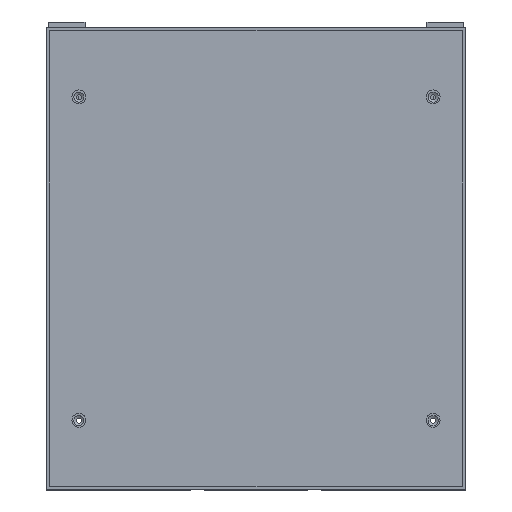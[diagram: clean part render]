
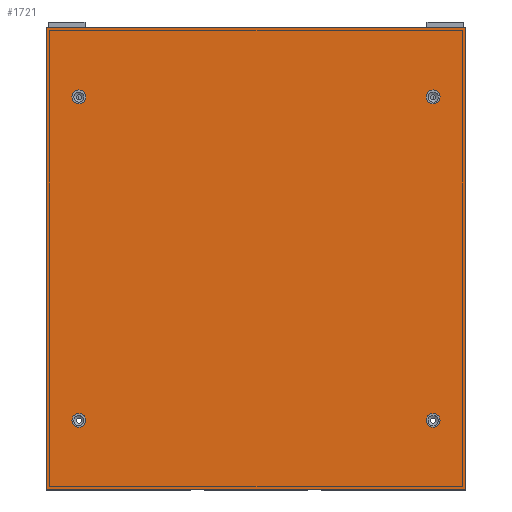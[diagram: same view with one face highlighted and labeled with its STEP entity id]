
A CAD part, top view. The second image highlights one B-rep face of the part: STEP entity #1721.
In plain terms, the highlighted planar face has unit normal (0, 0, 1).
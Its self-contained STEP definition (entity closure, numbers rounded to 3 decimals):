
#1721=ADVANCED_FACE('',(#5354,#5355,#5356,#5357,#5358),#2537,.F.);
#2537=PLANE('',#17333);
#3091=LINE('',#25508,#4287);
#3166=LINE('',#25684,#4362);
#3356=LINE('',#26326,#4552);
#3357=LINE('',#26327,#4553);
#4287=VECTOR('',#19388,1.);
#4362=VECTOR('',#19537,1.);
#4552=VECTOR('',#20227,1.);
#4553=VECTOR('',#20228,1.);
#5354=FACE_BOUND('',#6232,.T.);
#5355=FACE_BOUND('',#6233,.T.);
#5356=FACE_BOUND('',#6234,.T.);
#5357=FACE_BOUND('',#6235,.T.);
#5358=FACE_BOUND('',#6236,.T.);
#6232=EDGE_LOOP('',(#8543));
#6233=EDGE_LOOP('',(#8544));
#6234=EDGE_LOOP('',(#8545));
#6235=EDGE_LOOP('',(#8546));
#6236=EDGE_LOOP('',(#8547,#8548,#8549,#8550));
#8543=ORIENTED_EDGE('',*,*,#14450,.F.);
#8544=ORIENTED_EDGE('',*,*,#14451,.F.);
#8545=ORIENTED_EDGE('',*,*,#14452,.F.);
#8546=ORIENTED_EDGE('',*,*,#14453,.F.);
#8547=ORIENTED_EDGE('',*,*,#14137,.F.);
#8548=ORIENTED_EDGE('',*,*,#14454,.F.);
#8549=ORIENTED_EDGE('',*,*,#14044,.F.);
#8550=ORIENTED_EDGE('',*,*,#14455,.F.);
#12326=VERTEX_POINT('',#25507);
#12327=VERTEX_POINT('',#25509);
#12390=VERTEX_POINT('',#25683);
#12391=VERTEX_POINT('',#25685);
#12589=VERTEX_POINT('',#26319);
#12590=VERTEX_POINT('',#26321);
#12591=VERTEX_POINT('',#26323);
#12592=VERTEX_POINT('',#26325);
#14044=EDGE_CURVE('',#12326,#12327,#3091,.T.);
#14137=EDGE_CURVE('',#12390,#12391,#3166,.T.);
#14450=EDGE_CURVE('',#12589,#12589,#16183,.T.);
#14451=EDGE_CURVE('',#12590,#12590,#16184,.T.);
#14452=EDGE_CURVE('',#12591,#12591,#16185,.T.);
#14453=EDGE_CURVE('',#12592,#12592,#16186,.T.);
#14454=EDGE_CURVE('',#12327,#12390,#3356,.T.);
#14455=EDGE_CURVE('',#12391,#12326,#3357,.T.);
#16183=CIRCLE('',#17329,2.25);
#16184=CIRCLE('',#17330,2.25);
#16185=CIRCLE('',#17331,2.25);
#16186=CIRCLE('',#17332,2.25);
#17329=AXIS2_PLACEMENT_3D('',#26318,#20219,#20220);
#17330=AXIS2_PLACEMENT_3D('',#26320,#20221,#20222);
#17331=AXIS2_PLACEMENT_3D('',#26322,#20223,#20224);
#17332=AXIS2_PLACEMENT_3D('',#26324,#20225,#20226);
#17333=AXIS2_PLACEMENT_3D('',#26328,#20229,#20230);
#19388=DIRECTION('',(0.,1.,0.));
#19537=DIRECTION('',(0.,-1.,0.));
#20219=DIRECTION('',(0.,0.,1.));
#20220=DIRECTION('',(-1.,0.,0.));
#20221=DIRECTION('',(0.,0.,1.));
#20222=DIRECTION('',(1.,0.,0.));
#20223=DIRECTION('',(0.,0.,1.));
#20224=DIRECTION('',(-1.,0.,0.));
#20225=DIRECTION('',(0.,0.,1.));
#20226=DIRECTION('',(1.,0.,0.));
#20227=DIRECTION('',(1.,0.,0.));
#20228=DIRECTION('',(-1.,0.,0.));
#20229=DIRECTION('',(0.,0.,-1.));
#20230=DIRECTION('',(1.,0.,0.));
#25507=CARTESIAN_POINT('',(-68.,-78.,193.));
#25508=CARTESIAN_POINT('',(-68.,72.,193.));
#25509=CARTESIAN_POINT('',(-68.,72.,193.));
#25683=CARTESIAN_POINT('',(68.,72.,193.));
#25684=CARTESIAN_POINT('',(68.,72.,193.));
#25685=CARTESIAN_POINT('',(68.,-78.,193.));
#26318=CARTESIAN_POINT('',(-57.5,-55.5,193.));
#26319=CARTESIAN_POINT('',(-59.75,-55.5,193.));
#26320=CARTESIAN_POINT('',(57.5,-55.5,193.));
#26321=CARTESIAN_POINT('',(59.75,-55.5,193.));
#26322=CARTESIAN_POINT('',(57.5,49.5,193.));
#26323=CARTESIAN_POINT('',(55.25,49.5,193.));
#26324=CARTESIAN_POINT('',(-57.5,49.5,193.));
#26325=CARTESIAN_POINT('',(-55.25,49.5,193.));
#26326=CARTESIAN_POINT('',(68.,72.,193.));
#26327=CARTESIAN_POINT('',(68.,-78.,193.));
#26328=CARTESIAN_POINT('',(0.,-3.,193.));
